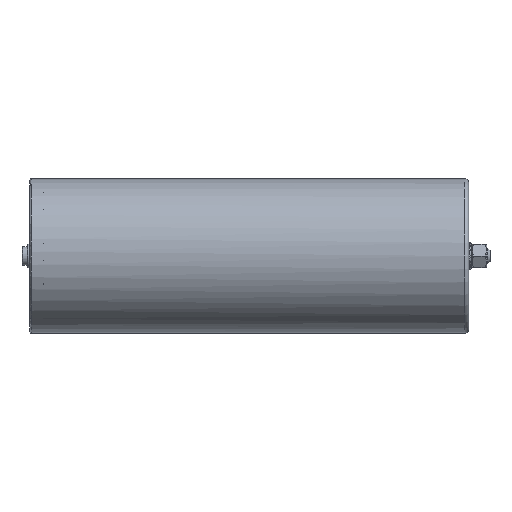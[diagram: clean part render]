
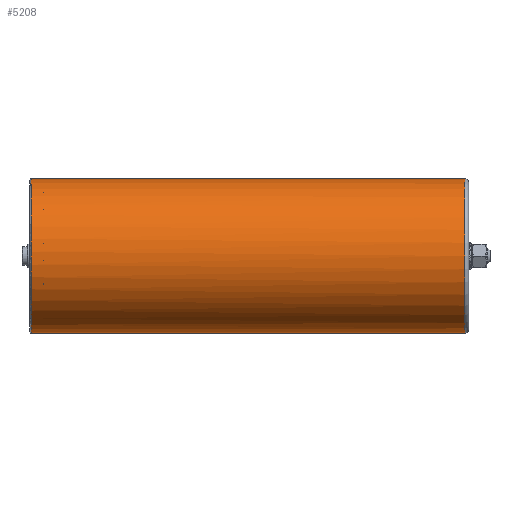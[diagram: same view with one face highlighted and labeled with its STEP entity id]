
A CAD part, left-side view. The second image highlights one B-rep face of the part: STEP entity #5208.
In plain terms, the highlighted cylindrical face has radius 58 mm (diameter 116 mm), a partial arc.
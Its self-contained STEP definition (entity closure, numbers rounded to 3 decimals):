
#488 = CIRCLE ( 'NONE', #1898, 58. ) ;
#640 = ORIENTED_EDGE ( 'NONE', *, *, #6725, .T. ) ;
#743 = DIRECTION ( 'NONE',  ( 0., -1., 0. ) ) ;
#834 = EDGE_CURVE ( 'NONE', #12087, #2817, #5720, .T. ) ;
#1014 = VECTOR ( 'NONE', #5948, 1000. ) ;
#1570 = CARTESIAN_POINT ( 'NONE',  ( 0., 320., -58. ) ) ;
#1863 = VECTOR ( 'NONE', #743, 1000. ) ;
#1898 = AXIS2_PLACEMENT_3D ( 'NONE', #2669, #8670, #6576 ) ;
#2368 = EDGE_CURVE ( 'NONE', #9005, #5623, #4023, .T. ) ;
#2623 = ORIENTED_EDGE ( 'NONE', *, *, #2368, .F. ) ;
#2669 = CARTESIAN_POINT ( 'NONE',  ( 0., 329., 0. ) ) ;
#2813 = AXIS2_PLACEMENT_3D ( 'NONE', #12486, #5683, #10738 ) ;
#2817 = VERTEX_POINT ( 'NONE', #6494 ) ;
#2830 = CARTESIAN_POINT ( 'NONE',  ( 0., 329., 0. ) ) ;
#3094 = CARTESIAN_POINT ( 'NONE',  ( -41.012, 329., -41.012 ) ) ;
#3100 = CARTESIAN_POINT ( 'NONE',  ( 0., 329., 58. ) ) ;
#3118 = CARTESIAN_POINT ( 'NONE',  ( 0., 320., 58. ) ) ;
#3435 = ORIENTED_EDGE ( 'NONE', *, *, #10048, .T. ) ;
#3783 = ORIENTED_EDGE ( 'NONE', *, *, #8455, .T. ) ;
#4023 = LINE ( 'NONE', #3118, #1014 ) ;
#4462 = DIRECTION ( 'NONE',  ( 0., 1., 0. ) ) ;
#4666 = CYLINDRICAL_SURFACE ( 'NONE', #2813, 58. ) ;
#4682 = AXIS2_PLACEMENT_3D ( 'NONE', #2830, #10710, #10643 ) ;
#5208 = ADVANCED_FACE ( 'NONE', ( #11505 ), #4666, .T. ) ;
#5623 = VERTEX_POINT ( 'NONE', #10404 ) ;
#5683 = DIRECTION ( 'NONE',  ( 0., -1., 0. ) ) ;
#5720 = LINE ( 'NONE', #1570, #1863 ) ;
#5948 = DIRECTION ( 'NONE',  ( 0., -1., 0. ) ) ;
#6494 = CARTESIAN_POINT ( 'NONE',  ( 0., 3., -58. ) ) ;
#6504 = DIRECTION ( 'NONE',  ( 0., 0., 1. ) ) ;
#6536 = CARTESIAN_POINT ( 'NONE',  ( 0., 329., -58. ) ) ;
#6576 = DIRECTION ( 'NONE',  ( -0.707, 0., -0.707 ) ) ;
#6725 = EDGE_CURVE ( 'NONE', #2817, #5623, #9145, .T. ) ;
#7596 = ORIENTED_EDGE ( 'NONE', *, *, #834, .T. ) ;
#8184 = VERTEX_POINT ( 'NONE', #3094 ) ;
#8455 = EDGE_CURVE ( 'NONE', #9005, #8184, #12462, .T. ) ;
#8517 = AXIS2_PLACEMENT_3D ( 'NONE', #10346, #4462, #6504 ) ;
#8670 = DIRECTION ( 'NONE',  ( 0., -1., 0. ) ) ;
#9005 = VERTEX_POINT ( 'NONE', #3100 ) ;
#9145 = CIRCLE ( 'NONE', #8517, 58. ) ;
#10048 = EDGE_CURVE ( 'NONE', #8184, #12087, #488, .T. ) ;
#10346 = CARTESIAN_POINT ( 'NONE',  ( 0., 3., 0. ) ) ;
#10404 = CARTESIAN_POINT ( 'NONE',  ( 0., 3., 58. ) ) ;
#10643 = DIRECTION ( 'NONE',  ( -0.707, 0., -0.707 ) ) ;
#10710 = DIRECTION ( 'NONE',  ( 0., -1., 0. ) ) ;
#10738 = DIRECTION ( 'NONE',  ( 0., 0., -1. ) ) ;
#11505 = FACE_OUTER_BOUND ( 'NONE', #12035, .T. ) ;
#12035 = EDGE_LOOP ( 'NONE', ( #2623, #3783, #3435, #7596, #640 ) ) ;
#12087 = VERTEX_POINT ( 'NONE', #6536 ) ;
#12462 = CIRCLE ( 'NONE', #4682, 58. ) ;
#12486 = CARTESIAN_POINT ( 'NONE',  ( 0., 320., 0. ) ) ;
